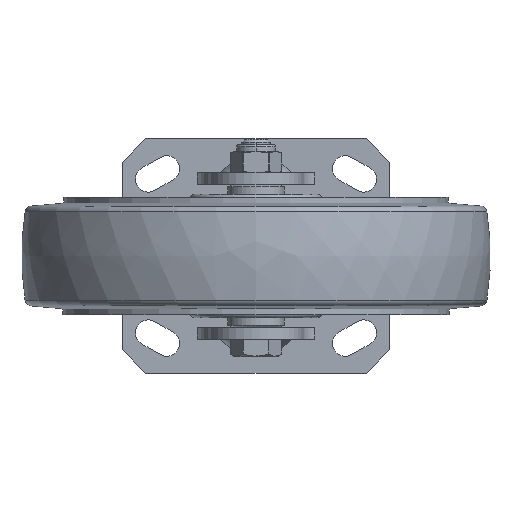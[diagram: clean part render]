
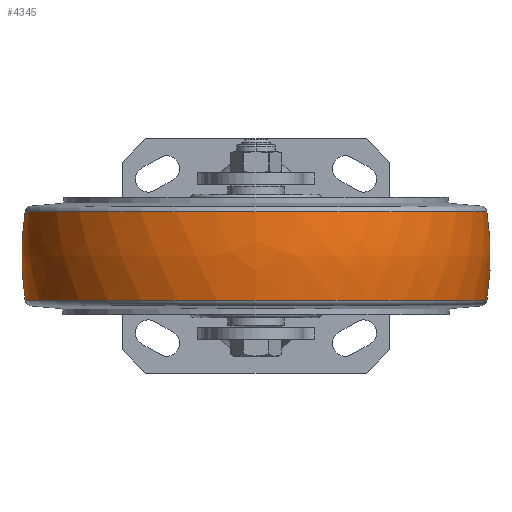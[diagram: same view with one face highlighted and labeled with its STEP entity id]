
A CAD part, front view. The second image highlights one B-rep face of the part: STEP entity #4345.
In plain terms, the highlighted free-form (B-spline) face has degree [3, 3] with [7, 4] control points.
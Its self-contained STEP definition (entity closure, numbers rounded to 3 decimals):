
#3513=CARTESIAN_POINT('',(0.,-20.094,0.));
#3514=DIRECTION('',(0.,0.,1.));
#3515=DIRECTION('',(0.158,0.988,0.));
#3516=AXIS2_PLACEMENT_3D('',#3513,#3514,#3515);
#3518=CARTESIAN_POINT('',(0.,20.094,0.));
#3519=DIRECTION('',(0.,0.,-1.));
#3520=DIRECTION('',(0.158,-0.988,0.));
#3521=AXIS2_PLACEMENT_3D('',#3518,#3519,#3520);
#3523=CARTESIAN_POINT('',(18.914,0.,0.));
#3524=DIRECTION('',(-1.,0.,0.));
#3525=DIRECTION('',(0.,1.,0.));
#3526=AXIS2_PLACEMENT_3D('',#3523,#3524,#3525);
#3548=CARTESIAN_POINT('',(-18.783,0.,0.));
#3549=DIRECTION('',(-1.,0.,0.));
#3550=DIRECTION('',(0.,1.,0.));
#3551=AXIS2_PLACEMENT_3D('',#3548,#3549,#3550);
#3809=CARTESIAN_POINT('',(18.914,98.451,
0.));
#3810=VERTEX_POINT('',#3809);
#3811=CARTESIAN_POINT('',(-18.783,98.471,
0.));
#3812=VERTEX_POINT('',#3811);
#3873=CARTESIAN_POINT('',(18.914,-98.451,
0.));
#3874=VERTEX_POINT('',#3873);
#3875=CARTESIAN_POINT('',(-18.783,-98.471,
0.));
#3876=VERTEX_POINT('',#3875);
#4307=CARTESIAN_POINT('',(-19.531,-98.157,
6.175));
#4308=CARTESIAN_POINT('',(-6.524,-100.297,
6.31));
#4309=CARTESIAN_POINT('',(6.657,-100.29,6.31));
#4310=CARTESIAN_POINT('',(19.661,-98.135,6.174));
#4311=CARTESIAN_POINT('',(-19.531,-101.957,
-54.23));
#4312=CARTESIAN_POINT('',(-6.524,-104.18,
-55.412));
#4313=CARTESIAN_POINT('',(6.657,-104.173,
-55.408));
#4314=CARTESIAN_POINT('',(19.661,-101.934,
-54.218));
#4315=CARTESIAN_POINT('',(-19.531,-60.525,
-98.351));
#4316=CARTESIAN_POINT('',(-6.524,-61.845,
-100.495));
#4317=CARTESIAN_POINT('',(6.657,-61.84,
-100.488));
#4318=CARTESIAN_POINT('',(19.661,-60.512,
-98.329));
#4319=CARTESIAN_POINT('',(-19.531,0.,
-98.351));
#4320=CARTESIAN_POINT('',(-6.524,0.,
-100.495));
#4321=CARTESIAN_POINT('',(6.657,0.,
-100.488));
#4322=CARTESIAN_POINT('',(19.661,0.,
-98.329));
#4323=CARTESIAN_POINT('',(-19.531,60.525,
-98.351));
#4324=CARTESIAN_POINT('',(-6.524,61.845,
-100.495));
#4325=CARTESIAN_POINT('',(6.657,61.84,-100.488));
#4326=CARTESIAN_POINT('',(19.661,60.512,-98.329));
#4327=CARTESIAN_POINT('',(-19.531,101.957,
-54.23));
#4328=CARTESIAN_POINT('',(-6.524,104.18,
-55.412));
#4329=CARTESIAN_POINT('',(6.657,104.173,-55.408));
#4330=CARTESIAN_POINT('',(19.661,101.934,-54.218));
#4331=CARTESIAN_POINT('',(-19.531,98.157,6.175));
#4332=CARTESIAN_POINT('',(-6.524,100.297,6.31));
#4333=CARTESIAN_POINT('',(6.657,100.29,6.31));
#4334=CARTESIAN_POINT('',(19.661,98.135,6.174));
#4335=(BOUNDED_SURFACE()B_SPLINE_SURFACE(3,3,((#4307,#4308,#4309,#4310),(#4311,
#4312,#4313,#4314),(#4315,#4316,#4317,#4318),(#4319,#4320,#4321,#4322),(#4323,
#4324,#4325,#4326),(#4327,#4328,#4329,#4330),(#4331,#4332,#4333,#4334)),
.UNSPECIFIED.,.F.,.F.,.F.)B_SPLINE_SURFACE_WITH_KNOTS((4,3,4),(4,4),(0.,1.,
2.),(0.,1.),.UNSPECIFIED.)GEOMETRIC_REPRESENTATION_ITEM()RATIONAL_B_SPLINE_SURFACE(((1.195,1.185,1.185,1.195),(
0.944,0.935,0.935,0.944),(
0.944,0.935,0.935,0.944),(
1.195,1.185,1.185,1.195),(
0.944,0.935,0.935,0.944),(
0.944,0.935,0.935,0.944),(
1.195,1.185,1.185,1.195)))REPRESENTATION_ITEM('')SURFACE());
#4337=ORIENTED_EDGE('',*,*,#4336,.T.);
#4339=ORIENTED_EDGE('',*,*,#4338,.T.);
#4341=ORIENTED_EDGE('',*,*,#4340,.F.);
#4342=ORIENTED_EDGE('',*,*,#4300,.F.);
#4343=EDGE_LOOP('',(#4337,#4339,#4341,#4342));
#4344=FACE_OUTER_BOUND('',#4343,.F.);
#3517=CIRCLE('',#3516,120.044);
#3522=CIRCLE('',#3521,120.044);
#3527=CIRCLE('',#3526,98.451);
#3552=CIRCLE('',#3551,98.471);
#4300=EDGE_CURVE('',#3810,#3874,#3527,.T.);
#4336=EDGE_CURVE('',#3810,#3812,#3517,.T.);
#4338=EDGE_CURVE('',#3812,#3876,#3552,.T.);
#4340=EDGE_CURVE('',#3874,#3876,#3522,.T.);
#4345=ADVANCED_FACE('',(#4344),#4335,.T.);
